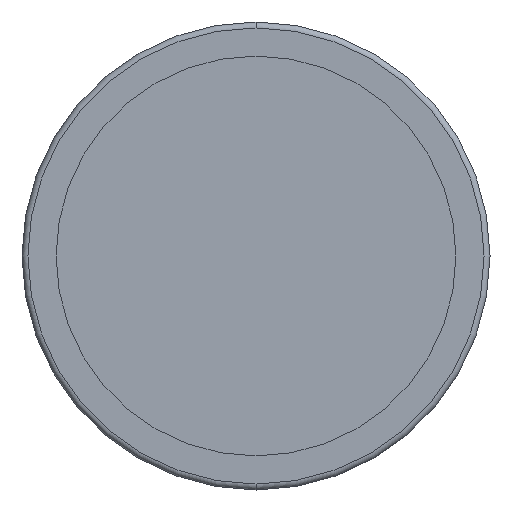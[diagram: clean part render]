
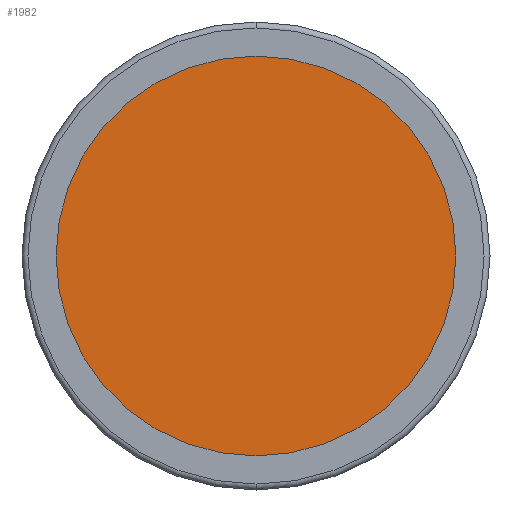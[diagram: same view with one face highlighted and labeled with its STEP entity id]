
A CAD part, front view. The second image highlights one B-rep face of the part: STEP entity #1982.
In plain terms, the highlighted planar face has unit normal (0, -1, 0).
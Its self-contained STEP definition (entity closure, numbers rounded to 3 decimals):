
#109 = EDGE_CURVE ( 'NONE', #1521, #2181, #225, .T. ) ;
#225 = CIRCLE ( 'NONE', #549, 33.75 ) ;
#340 = EDGE_CURVE ( 'NONE', #2181, #1521, #1192, .T. ) ;
#499 = FACE_OUTER_BOUND ( 'NONE', #1487, .T. ) ;
#549 = AXIS2_PLACEMENT_3D ( 'NONE', #1277, #887, #1856 ) ;
#742 = CARTESIAN_POINT ( 'NONE',  ( -33.75, -2., 0. ) ) ;
#856 = DIRECTION ( 'NONE',  ( 0., 1., 0. ) ) ;
#887 = DIRECTION ( 'NONE',  ( 0., 1., 0. ) ) ;
#1150 = ORIENTED_EDGE ( 'NONE', *, *, #340, .F. ) ;
#1192 = CIRCLE ( 'NONE', #2367, 33.75 ) ;
#1277 = CARTESIAN_POINT ( 'NONE',  ( 0., -2., 0. ) ) ;
#1317 = DIRECTION ( 'NONE',  ( 0., -1., 0. ) ) ;
#1405 = ORIENTED_EDGE ( 'NONE', *, *, #109, .F. ) ;
#1487 = EDGE_LOOP ( 'NONE', ( #1150, #1405 ) ) ;
#1508 = CARTESIAN_POINT ( 'NONE',  ( 0., -2., 33.75 ) ) ;
#1521 = VERTEX_POINT ( 'NONE', #2050 ) ;
#1793 = AXIS2_PLACEMENT_3D ( 'NONE', #742, #1317, #2436 ) ;
#1794 = CARTESIAN_POINT ( 'NONE',  ( 0., -2., 0. ) ) ;
#1856 = DIRECTION ( 'NONE',  ( 0., 0., 1. ) ) ;
#1982 = ADVANCED_FACE ( 'NONE', ( #499 ), #2391, .T. ) ;
#2050 = CARTESIAN_POINT ( 'NONE',  ( 0., -2., -33.75 ) ) ;
#2181 = VERTEX_POINT ( 'NONE', #1508 ) ;
#2367 = AXIS2_PLACEMENT_3D ( 'NONE', #1794, #856, #2394 ) ;
#2391 = PLANE ( 'NONE',  #1793 ) ;
#2394 = DIRECTION ( 'NONE',  ( 0., 0., 1. ) ) ;
#2436 = DIRECTION ( 'NONE',  ( 0., 0., -1. ) ) ;
